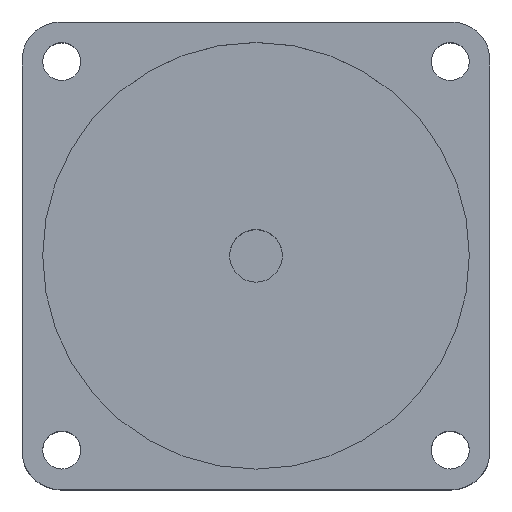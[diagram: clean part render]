
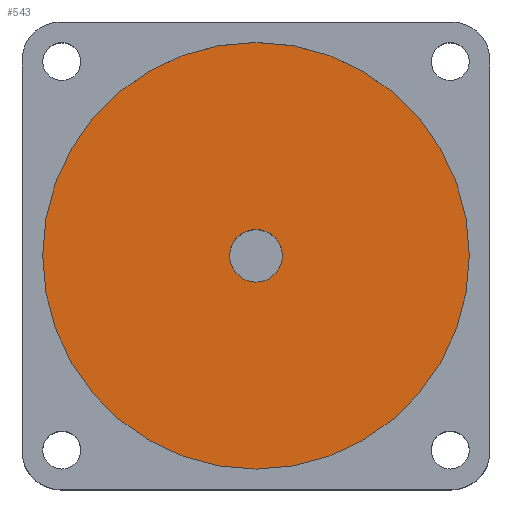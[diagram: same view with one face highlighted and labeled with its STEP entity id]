
A CAD part, top view. The second image highlights one B-rep face of the part: STEP entity #543.
In plain terms, the highlighted planar face has unit normal (0, 0, 1).
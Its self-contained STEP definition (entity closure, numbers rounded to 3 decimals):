
#5 = ORIENTED_EDGE ( 'NONE', *, *, #1393, .T. ) ;
#30 = EDGE_LOOP ( 'NONE', ( #254, #5 ) ) ;
#47 = CARTESIAN_POINT ( 'NONE',  ( 0., 0., -2. ) ) ;
#76 = PLANE ( 'NONE',  #1084 ) ;
#186 = CARTESIAN_POINT ( 'NONE',  ( -4.5, 0., -2. ) ) ;
#228 = EDGE_LOOP ( 'NONE', ( #1389, #617 ) ) ;
#254 = ORIENTED_EDGE ( 'NONE', *, *, #795, .T. ) ;
#269 = DIRECTION ( 'NONE',  ( 1., 0., 0. ) ) ;
#290 = DIRECTION ( 'NONE',  ( 1., 0., 0. ) ) ;
#304 = DIRECTION ( 'NONE',  ( 0., 0., 1. ) ) ;
#321 = FACE_BOUND ( 'NONE', #228, .T. ) ;
#360 = CARTESIAN_POINT ( 'NONE',  ( 4.5, 0., -2. ) ) ;
#384 = DIRECTION ( 'NONE',  ( 1., 0., 0. ) ) ;
#399 = CARTESIAN_POINT ( 'NONE',  ( -36.5, 0., -2. ) ) ;
#471 = EDGE_CURVE ( 'NONE', #564, #1199, #811, .T. ) ;
#523 = DIRECTION ( 'NONE',  ( 0., 0., 1. ) ) ;
#543 = ADVANCED_FACE ( 'NONE', ( #1383, #321 ), #76, .T. ) ;
#564 = VERTEX_POINT ( 'NONE', #186 ) ;
#612 = DIRECTION ( 'NONE',  ( 0., 0., -1. ) ) ;
#617 = ORIENTED_EDGE ( 'NONE', *, *, #471, .T. ) ;
#628 = DIRECTION ( 'NONE',  ( 1., 0., 0. ) ) ;
#675 = CARTESIAN_POINT ( 'NONE',  ( 0., 0., -2. ) ) ;
#694 = CIRCLE ( 'NONE', #803, 36.5 ) ;
#732 = AXIS2_PLACEMENT_3D ( 'NONE', #1342, #1099, #269 ) ;
#795 = EDGE_CURVE ( 'NONE', #981, #1260, #694, .T. ) ;
#803 = AXIS2_PLACEMENT_3D ( 'NONE', #868, #1118, #384 ) ;
#811 = CIRCLE ( 'NONE', #732, 4.5 ) ;
#849 = CIRCLE ( 'NONE', #1202, 4.5 ) ;
#868 = CARTESIAN_POINT ( 'NONE',  ( 0., 0., -2. ) ) ;
#895 = EDGE_CURVE ( 'NONE', #1199, #564, #849, .T. ) ;
#956 = CIRCLE ( 'NONE', #1387, 36.5 ) ;
#981 = VERTEX_POINT ( 'NONE', #1395 ) ;
#1014 = DIRECTION ( 'NONE',  ( 1., 0., 0. ) ) ;
#1084 = AXIS2_PLACEMENT_3D ( 'NONE', #1275, #304, #1014 ) ;
#1099 = DIRECTION ( 'NONE',  ( 0., 0., -1. ) ) ;
#1118 = DIRECTION ( 'NONE',  ( 0., 0., 1. ) ) ;
#1199 = VERTEX_POINT ( 'NONE', #360 ) ;
#1202 = AXIS2_PLACEMENT_3D ( 'NONE', #47, #612, #628 ) ;
#1260 = VERTEX_POINT ( 'NONE', #399 ) ;
#1275 = CARTESIAN_POINT ( 'NONE',  ( 0., 0., -2. ) ) ;
#1342 = CARTESIAN_POINT ( 'NONE',  ( 0., 0., -2. ) ) ;
#1383 = FACE_OUTER_BOUND ( 'NONE', #30, .T. ) ;
#1387 = AXIS2_PLACEMENT_3D ( 'NONE', #675, #523, #290 ) ;
#1389 = ORIENTED_EDGE ( 'NONE', *, *, #895, .T. ) ;
#1393 = EDGE_CURVE ( 'NONE', #1260, #981, #956, .T. ) ;
#1395 = CARTESIAN_POINT ( 'NONE',  ( 36.5, 0., -2. ) ) ;
